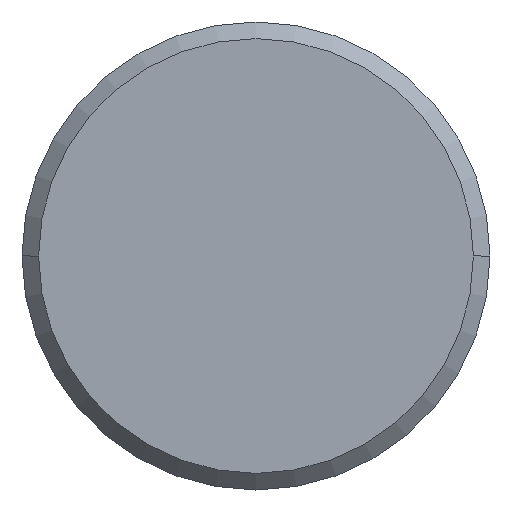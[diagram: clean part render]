
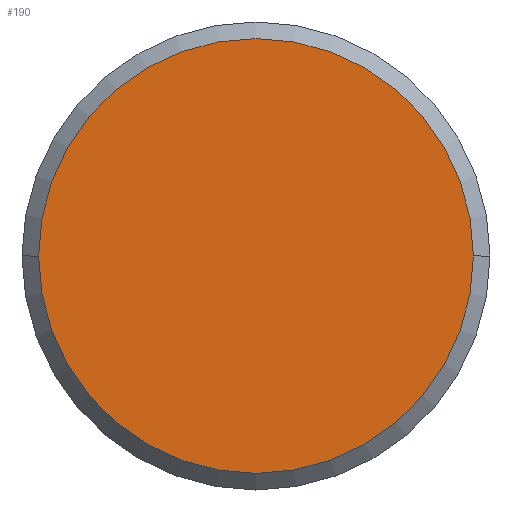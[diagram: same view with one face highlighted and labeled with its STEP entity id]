
A CAD part, front view. The second image highlights one B-rep face of the part: STEP entity #190.
In plain terms, the highlighted planar face has unit normal (0, -1, 0).
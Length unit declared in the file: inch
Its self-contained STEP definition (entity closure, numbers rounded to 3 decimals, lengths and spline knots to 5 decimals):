
#155 = CIRCLE ( 'NONE', #2048, 0.8175 ) ;
#190 = ADVANCED_FACE ( 'NONE', ( #776 ), #418, .T. ) ;
#405 = DIRECTION ( 'NONE',  ( 0., 0., -1. ) ) ;
#406 = DIRECTION ( 'NONE',  ( 0., -1., 0. ) ) ;
#407 = CARTESIAN_POINT ( 'NONE',  ( -2.09714, 0.20536, 0. ) ) ;
#418 = PLANE ( 'NONE',  #2846 ) ;
#776 = FACE_OUTER_BOUND ( 'NONE', #4065, .T. ) ;
#875 = CIRCLE ( 'NONE', #2106, 0.8175 ) ;
#1404 = CARTESIAN_POINT ( 'NONE',  ( -2.78114, 0.20536, 0. ) ) ;
#1405 = DIRECTION ( 'NONE',  ( 0., -1., 0. ) ) ;
#1406 = DIRECTION ( 'NONE',  ( -1., 0., 0. ) ) ;
#1657 = CARTESIAN_POINT ( 'NONE',  ( -2.78114, 0.20536, 0. ) ) ;
#1658 = DIRECTION ( 'NONE',  ( 0., -1., 0. ) ) ;
#1659 = DIRECTION ( 'NONE',  ( -1., 0., 0. ) ) ;
#1675 = CARTESIAN_POINT ( 'NONE',  ( -1.96364, 0.20536, 0. ) ) ;
#2048 = AXIS2_PLACEMENT_3D ( 'NONE', #1657, #1658, #1659 ) ;
#2106 = AXIS2_PLACEMENT_3D ( 'NONE', #1404, #1405, #1406 ) ;
#2284 = CARTESIAN_POINT ( 'NONE',  ( -3.59864, 0.20536, 0. ) ) ;
#2380 = ORIENTED_EDGE ( 'NONE', *, *, #2576, .T. ) ;
#2381 = ORIENTED_EDGE ( 'NONE', *, *, #2988, .T. ) ;
#2576 = EDGE_CURVE ( 'NONE', #3096, #3044, #875, .T. ) ;
#2846 = AXIS2_PLACEMENT_3D ( 'NONE', #407, #406, #405 ) ;
#2988 = EDGE_CURVE ( 'NONE', #3044, #3096, #155, .T. ) ;
#3044 = VERTEX_POINT ( 'NONE', #1675 ) ;
#3096 = VERTEX_POINT ( 'NONE', #2284 ) ;
#4065 = EDGE_LOOP ( 'NONE', ( #2380, #2381 ) ) ;
